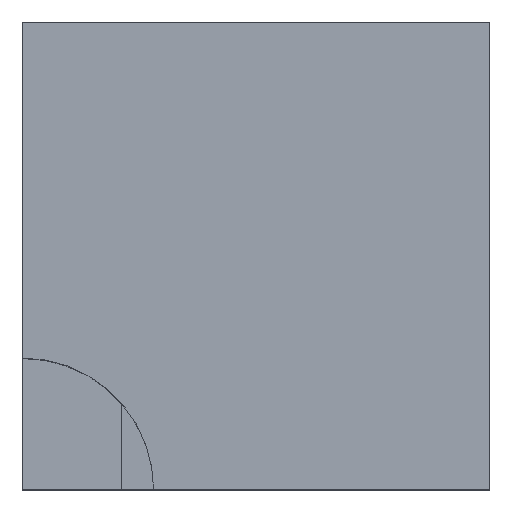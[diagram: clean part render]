
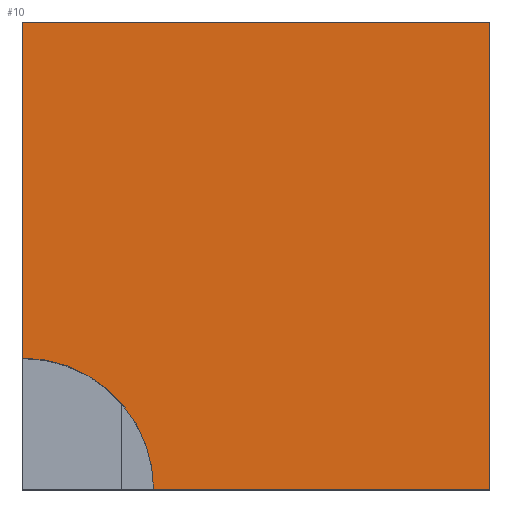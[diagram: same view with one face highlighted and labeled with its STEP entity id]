
A CAD part, top view. The second image highlights one B-rep face of the part: STEP entity #10.
In plain terms, the highlighted planar face has unit normal (0, 0, 1).
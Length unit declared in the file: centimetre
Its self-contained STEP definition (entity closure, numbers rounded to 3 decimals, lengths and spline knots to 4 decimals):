
#10 = ADVANCED_FACE ( 'NONE', ( #429 ), #433, .T. ) ;
#48 = CARTESIAN_POINT ( 'NONE',  ( 1000., 1000., 1000. ) ) ;
#59 = VERTEX_POINT ( 'NONE', #106 ) ;
#92 = EDGE_CURVE ( 'NONE', #947, #536, #266, .T. ) ;
#106 = CARTESIAN_POINT ( 'NONE',  ( 1000., 1000., 1000. ) ) ;
#117 = CARTESIAN_POINT ( 'NONE',  ( 0., 280.7828, 1000. ) ) ;
#129 = VERTEX_POINT ( 'NONE', #117 ) ;
#184 = DIRECTION ( 'NONE',  ( 1., 0., 0. ) ) ;
#232 = CARTESIAN_POINT ( 'NONE',  ( 0., 0., 1000. ) ) ;
#266 = LINE ( 'NONE', #924, #798 ) ;
#284 = VECTOR ( 'NONE', #875, 100. ) ;
#341 = AXIS2_PLACEMENT_3D ( 'NONE', #232, #561, #538 ) ;
#429 = FACE_OUTER_BOUND ( 'NONE', #637, .T. ) ;
#433 = PLANE ( 'NONE',  #1001 ) ;
#511 = DIRECTION ( 'NONE',  ( 0., 0., 1. ) ) ;
#517 = ORIENTED_EDGE ( 'NONE', *, *, #820, .T. ) ;
#523 = LINE ( 'NONE', #529, #582 ) ;
#529 = CARTESIAN_POINT ( 'NONE',  ( 0., 1000., 1000. ) ) ;
#536 = VERTEX_POINT ( 'NONE', #644 ) ;
#537 = ORIENTED_EDGE ( 'NONE', *, *, #92, .T. ) ;
#538 = DIRECTION ( 'NONE',  ( 1., 0., 0. ) ) ;
#548 = CIRCLE ( 'NONE', #341, 280.7828 ) ;
#561 = DIRECTION ( 'NONE',  ( 0., 0., 1. ) ) ;
#582 = VECTOR ( 'NONE', #994, 100. ) ;
#591 = CARTESIAN_POINT ( 'NONE',  ( 0., 0., 1000. ) ) ;
#628 = CARTESIAN_POINT ( 'NONE',  ( 280.7828, 0., 1000. ) ) ;
#637 = EDGE_LOOP ( 'NONE', ( #881, #537, #786, #517, #705 ) ) ;
#640 = DIRECTION ( 'NONE',  ( 0., -1., 0. ) ) ;
#644 = CARTESIAN_POINT ( 'NONE',  ( 1000., 0., 1000. ) ) ;
#688 = DIRECTION ( 'NONE',  ( 1., 0., 0. ) ) ;
#705 = ORIENTED_EDGE ( 'NONE', *, *, #990, .T. ) ;
#786 = ORIENTED_EDGE ( 'NONE', *, *, #997, .T. ) ;
#793 = VERTEX_POINT ( 'NONE', #935 ) ;
#798 = VECTOR ( 'NONE', #184, 100. ) ;
#803 = LINE ( 'NONE', #48, #284 ) ;
#820 = EDGE_CURVE ( 'NONE', #59, #793, #523, .T. ) ;
#875 = DIRECTION ( 'NONE',  ( 0., 1., 0. ) ) ;
#881 = ORIENTED_EDGE ( 'NONE', *, *, #1026, .F. ) ;
#924 = CARTESIAN_POINT ( 'NONE',  ( 0., 0., 1000. ) ) ;
#935 = CARTESIAN_POINT ( 'NONE',  ( 0., 1000., 1000. ) ) ;
#947 = VERTEX_POINT ( 'NONE', #628 ) ;
#948 = CARTESIAN_POINT ( 'NONE',  ( 0., 1000., 1000. ) ) ;
#957 = LINE ( 'NONE', #948, #986 ) ;
#986 = VECTOR ( 'NONE', #640, 100. ) ;
#990 = EDGE_CURVE ( 'NONE', #793, #129, #957, .T. ) ;
#994 = DIRECTION ( 'NONE',  ( -1., 0., 0. ) ) ;
#997 = EDGE_CURVE ( 'NONE', #536, #59, #803, .T. ) ;
#1001 = AXIS2_PLACEMENT_3D ( 'NONE', #591, #511, #688 ) ;
#1026 = EDGE_CURVE ( 'NONE', #947, #129, #548, .T. ) ;
